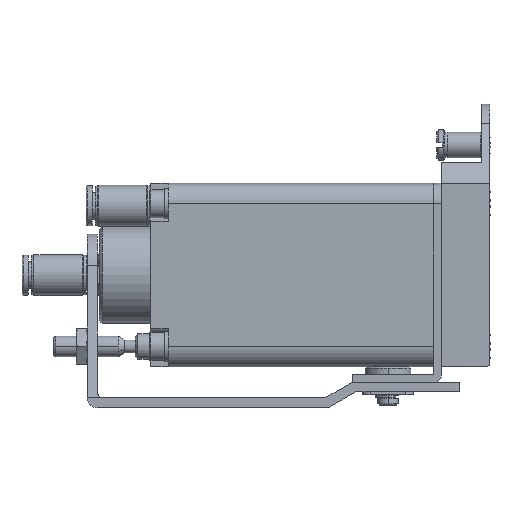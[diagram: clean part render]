
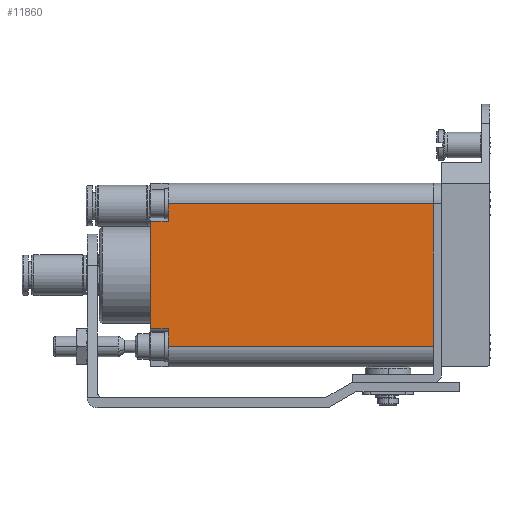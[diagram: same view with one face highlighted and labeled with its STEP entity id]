
A CAD part, left-side view. The second image highlights one B-rep face of the part: STEP entity #11860.
In plain terms, the highlighted planar face has unit normal (-1, 0, 0).
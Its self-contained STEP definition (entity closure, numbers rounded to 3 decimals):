
#229 = VERTEX_POINT ( 'NONE', #11469 ) ;
#664 = VERTEX_POINT ( 'NONE', #24496 ) ;
#2672 = VECTOR ( 'NONE', #23709, 1000. ) ;
#2708 = CARTESIAN_POINT ( 'NONE',  ( -14., 50.5, -10.5 ) ) ;
#2755 = LINE ( 'NONE', #2708, #22184 ) ;
#3492 = LINE ( 'NONE', #18612, #2672 ) ;
#3879 = ORIENTED_EDGE ( 'NONE', *, *, #7592, .F. ) ;
#4769 = VERTEX_POINT ( 'NONE', #8997 ) ;
#4898 = LINE ( 'NONE', #5521, #10808 ) ;
#5521 = CARTESIAN_POINT ( 'NONE',  ( -14., 50.5, 14. ) ) ;
#6103 = CARTESIAN_POINT ( 'NONE',  ( -14., 52., 0. ) ) ;
#6132 = ORIENTED_EDGE ( 'NONE', *, *, #15439, .T. ) ;
#6477 = VECTOR ( 'NONE', #22198, 1000. ) ;
#7040 = CARTESIAN_POINT ( 'NONE',  ( -14., 55.5, 0. ) ) ;
#7349 = ORIENTED_EDGE ( 'NONE', *, *, #15941, .F. ) ;
#7592 = EDGE_CURVE ( 'NONE', #19218, #664, #19892, .T. ) ;
#7922 = CARTESIAN_POINT ( 'NONE',  ( -14., 53.75, 10.5 ) ) ;
#8997 = CARTESIAN_POINT ( 'NONE',  ( -14., 52., -10.5 ) ) ;
#9361 = VERTEX_POINT ( 'NONE', #12701 ) ;
#10434 = DIRECTION ( 'NONE',  ( 0., -1., 0. ) ) ;
#10808 = VECTOR ( 'NONE', #23235, 1000. ) ;
#11267 = CARTESIAN_POINT ( 'NONE',  ( -14., 52., 10.5 ) ) ;
#11469 = CARTESIAN_POINT ( 'NONE',  ( -14., 52., 14. ) ) ;
#11860 = ADVANCED_FACE ( 'NONE', ( #21873 ), #28075, .T. ) ;
#12611 = VECTOR ( 'NONE', #25854, 1000. ) ;
#12701 = CARTESIAN_POINT ( 'NONE',  ( -14., 0., -14. ) ) ;
#13049 = DIRECTION ( 'NONE',  ( -1., 0., 0. ) ) ;
#13153 = ORIENTED_EDGE ( 'NONE', *, *, #13967, .T. ) ;
#13456 = CARTESIAN_POINT ( 'NONE',  ( -14., 50.5, -14. ) ) ;
#13967 = EDGE_CURVE ( 'NONE', #229, #14475, #3492, .T. ) ;
#14475 = VERTEX_POINT ( 'NONE', #11267 ) ;
#14639 = VECTOR ( 'NONE', #10434, 1000. ) ;
#15439 = EDGE_CURVE ( 'NONE', #25208, #229, #4898, .T. ) ;
#15493 = LINE ( 'NONE', #13456, #21434 ) ;
#15881 = AXIS2_PLACEMENT_3D ( 'NONE', #28190, #13049, #30725 ) ;
#15919 = EDGE_CURVE ( 'NONE', #19218, #4769, #2755, .T. ) ;
#15941 = EDGE_CURVE ( 'NONE', #664, #14475, #28857, .T. ) ;
#17993 = DIRECTION ( 'NONE',  ( 0., -1., 0. ) ) ;
#18393 = EDGE_LOOP ( 'NONE', ( #6132, #13153, #7349, #3879, #25173, #31615, #24391, #21723 ) ) ;
#18612 = CARTESIAN_POINT ( 'NONE',  ( -14., 52., 0. ) ) ;
#19041 = EDGE_CURVE ( 'NONE', #4769, #23524, #22322, .T. ) ;
#19218 = VERTEX_POINT ( 'NONE', #26840 ) ;
#19892 = LINE ( 'NONE', #7040, #6477 ) ;
#20140 = CARTESIAN_POINT ( 'NONE',  ( -14., 52., -14. ) ) ;
#21115 = DIRECTION ( 'NONE',  ( 0., -1., 0. ) ) ;
#21261 = DIRECTION ( 'NONE',  ( 0., 0., -1. ) ) ;
#21434 = VECTOR ( 'NONE', #21115, 1000. ) ;
#21723 = ORIENTED_EDGE ( 'NONE', *, *, #27974, .T. ) ;
#21873 = FACE_OUTER_BOUND ( 'NONE', #18393, .T. ) ;
#22184 = VECTOR ( 'NONE', #17993, 1000. ) ;
#22198 = DIRECTION ( 'NONE',  ( 0., 0., 1. ) ) ;
#22322 = LINE ( 'NONE', #6103, #28198 ) ;
#22693 = EDGE_CURVE ( 'NONE', #23524, #9361, #15493, .T. ) ;
#23235 = DIRECTION ( 'NONE',  ( 0., 1., 0. ) ) ;
#23357 = CARTESIAN_POINT ( 'NONE',  ( -14., 0., 0. ) ) ;
#23524 = VERTEX_POINT ( 'NONE', #20140 ) ;
#23709 = DIRECTION ( 'NONE',  ( 0., 0., -1. ) ) ;
#24391 = ORIENTED_EDGE ( 'NONE', *, *, #22693, .T. ) ;
#24496 = CARTESIAN_POINT ( 'NONE',  ( -14., 55.5, 10.5 ) ) ;
#25173 = ORIENTED_EDGE ( 'NONE', *, *, #15919, .T. ) ;
#25208 = VERTEX_POINT ( 'NONE', #32553 ) ;
#25854 = DIRECTION ( 'NONE',  ( 0., 0., 1. ) ) ;
#26073 = LINE ( 'NONE', #23357, #12611 ) ;
#26840 = CARTESIAN_POINT ( 'NONE',  ( -14., 55.5, -10.5 ) ) ;
#27974 = EDGE_CURVE ( 'NONE', #9361, #25208, #26073, .T. ) ;
#28075 = PLANE ( 'NONE',  #15881 ) ;
#28190 = CARTESIAN_POINT ( 'NONE',  ( -14., 44.5, -16.8 ) ) ;
#28198 = VECTOR ( 'NONE', #21261, 1000. ) ;
#28857 = LINE ( 'NONE', #7922, #14639 ) ;
#30725 = DIRECTION ( 'NONE',  ( 0., 0., 1. ) ) ;
#31615 = ORIENTED_EDGE ( 'NONE', *, *, #19041, .T. ) ;
#32553 = CARTESIAN_POINT ( 'NONE',  ( -14., 0., 14. ) ) ;
